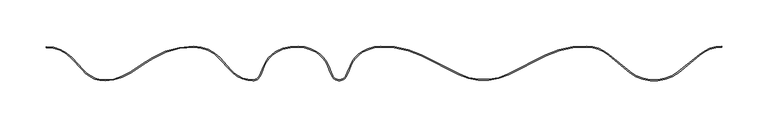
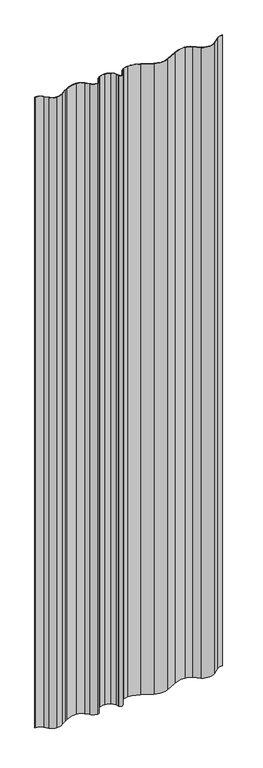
"""IFC4 building model written with IfcOpenShell, lengths in millimetres: plate geometry, Ritmica Couverture 728  : Ritmica Couverture 728 ."""

from ifc_helpers import new_model, si_unit, point, frame_2d, origin, origin_with_axes, place, context, project, spatial, polyline, circle_curve, trimmed, segment, composite_curve, outline, extrude, source, transform, mapped, element, save


def plate_36789d81(model_context):
    return source(origin(), model_context, "Body", "SweptSolid", [
        extrude(outline(composite_curve([segment(trimmed(circle_curve(frame_2d((-364.502108, -1.6070275)), 37.4503244), [point((-337.0323415, 23.8476131))], [point((-364.5, 35.8432969))], True, "CARTESIAN"), True, "CONTINUOUS"), segment(polyline([(-364.5, 35.8432969), (-364.5, 36.8432969)]), True, "CONTINUOUS"), segment(trimmed(circle_curve(frame_2d((-364.502108, -1.6070275)), 38.4503244), [point((-364.5, 36.8432969))], [point((-336.2988427, 24.5273039))], False, "CARTESIAN"), True, "CONTINUOUS"), segment(polyline([(-336.2988427, 24.5273039), (-325.1657095, 12.5128121)]), True, "CONTINUOUS"), segment(trimmed(circle_curve(frame_2d((-300.9525254, 31.7465075)), 30.9226992), [point((-325.1657095, 12.5128121))], [point((-300.9560263, 0.8238085))], True, "CARTESIAN"), True, "CONTINUOUS"), segment(trimmed(circle_curve(frame_2d((-301.1224531, 46.9875811)), 46.1640725), [point((-300.9560263, 0.8238085))], [point((-274.7793668, 9.077643))], True, "CARTESIAN"), True, "CONTINUOUS"), segment(polyline([(-274.7793668, 9.077643), (-257.4191603, 20.2335488), (-249.9824555, 24.6333657)]), True, "CONTINUOUS"), segment(trimmed(circle_curve(frame_2d((-207.0399788, -43.7745285)), 80.769402), [point((-249.9824555, 24.6333657))], [point((-205.2764454, 36.9756185))], False, "CARTESIAN"), True, "CONTINUOUS"), segment(trimmed(circle_curve(frame_2d((-205.28955, -1.4747036)), 38.4503244), [point((-205.2764454, 36.9756185))], [point((-177.0862848, 24.6596277))], False, "CARTESIAN"), True, "CONTINUOUS"), segment(polyline([(-177.0862848, 24.6596277), (-165.9530619, 12.6450392)]), True, "CONTINUOUS"), segment(trimmed(circle_curve(frame_2d((-141.7483155, 31.861513)), 30.9053816), [point((-165.9530619, 12.6450392))], [point((-141.7388151, 0.9561328))], True, "CARTESIAN"), True, "CONTINUOUS"), segment(trimmed(circle_curve(frame_2d((-141.7412317, 8.8174769)), 7.8613444), [point((-141.7388151, 0.9561328))], [point((-134.6523786, 5.41911))], True, "CARTESIAN"), True, "CONTINUOUS"), segment(polyline([(-134.6523786, 5.41911), (-133.0058364, 8.8537291), (-130.1361949, 16.0171646)]), True, "CONTINUOUS"), segment(trimmed(circle_curve(frame_2d((-100.7813815, 4.2736867)), 31.6166782), [point((-130.1361949, 16.0171646))], [point((-117.2712951, 31.249548))], False, "CARTESIAN"), True, "CONTINUOUS"), segment(trimmed(circle_curve(frame_2d((-95.6653979, -5.107923)), 42.2927948), [point((-117.2712951, 31.249548))], [point((-92.9613732, 37.0983413))], False, "CARTESIAN"), True, "CONTINUOUS"), segment(trimmed(circle_curve(frame_2d((-92.9958558, -1.3519677)), 38.4503244), [point((-92.9613732, 37.0983413))], [point((-72.9315296, 31.4481887))], False, "CARTESIAN"), True, "CONTINUOUS"), segment(trimmed(circle_curve(frame_2d((-89.429891, 4.4774932)), 31.6166783), [point((-72.9315296, 31.4481887))], [point((-60.0737631, 16.2176849))], False, "CARTESIAN"), True, "CONTINUOUS"), segment(polyline([(-60.0737631, 16.2176849), (-57.2049341, 9.0540021), (-55.5587687, 5.6192026)]), True, "CONTINUOUS"), segment(trimmed(circle_curve(frame_2d((-48.4695428, 9.016792)), 7.8613445), [point((-55.5587687, 5.6192026))], [point((-41.3806894, 5.6184253))], True, "CARTESIAN"), True, "CONTINUOUS"), segment(polyline([(-41.3806894, 5.6184253), (-39.7341474, 9.0530443), (-36.864533, 16.2164125)]), True, "CONTINUOUS"), segment(trimmed(circle_curve(frame_2d((-7.5096925, 4.473002)), 31.6166783), [point((-36.864533, 16.2164125))], [point((-24.0050966, 31.4455064))], False, "CARTESIAN"), True, "CONTINUOUS"), segment(trimmed(circle_curve(frame_2d((-3.9443669, -1.3568498)), 38.4503244), [point((-24.0050966, 31.4455064))], [point((-3.9600247, 37.0934714))], False, "CARTESIAN"), True, "CONTINUOUS"), segment(trimmed(circle_curve(frame_2d((-0.6465415, -57.1416685)), 94.293376), [point((-3.9600247, 37.0934714))], [point((40.2469535, 27.8228114))], False, "CARTESIAN"), True, "CONTINUOUS"), segment(polyline([(40.2469535, 27.8228114), (80.7920983, 7.4347692)]), True, "CONTINUOUS"), segment(trimmed(circle_curve(frame_2d((107.297726, 60.1457899)), 59.0), [point((80.7920983, 7.4347692))], [point((133.7975739, 7.4318632))], True, "CARTESIAN"), True, "CONTINUOUS"), segment(polyline([(133.7975739, 7.4318632), (174.3449541, 27.8154597)]), True, "CONTINUOUS"), segment(trimmed(circle_curve(frame_2d((215.2291326, -57.1535035)), 94.293376), [point((174.3449541, 27.8154597))], [point((218.5529494, 37.0812725))], False, "CARTESIAN"), True, "CONTINUOUS"), segment(trimmed(circle_curve(frame_2d((218.5330922, -1.0501427)), 38.1314203), [point((218.5529494, 37.0812725))], [point((242.9420646, 28.2450324))], False, "CARTESIAN"), True, "CONTINUOUS"), segment(polyline([(242.9420646, 28.2450324), (265.3517108, 9.5731372)]), True, "CONTINUOUS"), segment(trimmed(circle_curve(frame_2d((291.1626085, 44.140632)), 43.1406321), [point((265.3517108, 9.5731372))], [point((316.9697159, 9.5703074))], True, "CARTESIAN"), True, "CONTINUOUS"), segment(polyline([(316.9697159, 9.5703074), (339.6837236, 28.2398387)]), True, "CONTINUOUS"), segment(trimmed(circle_curve(frame_2d((364.0894837, -1.0580125)), 38.1314203), [point((339.6837236, 28.2398387))], [point((364.0915742, 37.0734077))], False, "CARTESIAN"), True, "CONTINUOUS"), segment(polyline([(364.0915742, 37.0734077), (364.0918834, 36.0734077)]), True, "CONTINUOUS"), segment(trimmed(circle_curve(frame_2d((364.0894837, -1.0580125)), 37.1314203), [point((364.0918834, 36.0734077))], [point((340.3237669, 27.4714999))], True, "CARTESIAN"), True, "CONTINUOUS"), segment(polyline([(340.3237669, 27.4714999), (317.5893991, 8.7850081)]), True, "CONTINUOUS"), segment(trimmed(circle_curve(frame_2d((291.1626085, 44.140632)), 44.1406321), [point((317.5893991, 8.7850081))], [point((264.7319415, 8.787906))], False, "CARTESIAN"), True, "CONTINUOUS"), segment(polyline([(264.7319415, 8.787906), (242.301937, 27.4767637)]), True, "CONTINUOUS"), segment(trimmed(circle_curve(frame_2d((218.5330922, -1.0501427)), 37.1314203), [point((242.301937, 27.4767637))], [point((218.5351278, 36.0812776))], True, "CARTESIAN"), True, "CONTINUOUS"), segment(trimmed(circle_curve(frame_2d((215.2291326, -57.1535035)), 93.293376), [point((218.5351278, 36.0812776))], [point((174.786334, 26.9180972))], True, "CARTESIAN"), True, "CONTINUOUS"), segment(polyline([(174.786334, 26.9180972), (134.2467239, 6.5384068)]), True, "CONTINUOUS"), segment(trimmed(circle_curve(frame_2d((107.297726, 60.1457899)), 60.0), [point((134.2467239, 6.5384068))], [point((80.3428504, 6.541362))], False, "CARTESIAN"), True, "CONTINUOUS"), segment(polyline([(80.3428504, 6.541362), (39.8054751, 26.9254973)]), True, "CONTINUOUS"), segment(trimmed(circle_curve(frame_2d((-0.6465415, -57.1416685)), 93.293376), [point((39.8054751, 26.9254973))], [point((-3.9423137, 36.0934746))], True, "CARTESIAN"), True, "CONTINUOUS"), segment(trimmed(circle_curve(frame_2d((-3.9443669, -1.3568498)), 37.4503244), [point((-3.9423137, 36.0934746))], [point((-23.4833655, 30.5923964))], True, "CARTESIAN"), True, "CONTINUOUS"), segment(trimmed(circle_curve(frame_2d((-7.5096925, 4.473002)), 30.6166783), [point((-23.4833655, 30.5923964))], [point((-35.936159, 15.8447651))], True, "CARTESIAN"), True, "CONTINUOUS"), segment(polyline([(-35.936159, 15.8447651), (-38.8181393, 8.6505282), (-40.478954, 5.1861371)]), True, "CONTINUOUS"), segment(trimmed(circle_curve(frame_2d((-48.4695428, 9.016792)), 8.8613445), [point((-40.478954, 5.1861371))], [point((-56.4605516, 5.1870133))], False, "CARTESIAN"), True, "CONTINUOUS"), segment(polyline([(-56.4605516, 5.1870133), (-58.1209864, 8.6515865), (-61.0021778, 15.8461393)]), True, "CONTINUOUS"), segment(trimmed(circle_curve(frame_2d((-89.429891, 4.4774932)), 30.6166783), [point((-61.0021778, 15.8461393))], [point((-73.4533542, 30.5951359))], True, "CARTESIAN"), True, "CONTINUOUS"), segment(trimmed(circle_curve(frame_2d((-92.9958558, -1.3519677)), 37.4503244), [point((-73.4533542, 30.5951359))], [point((-92.9938031, 36.0983567))], True, "CARTESIAN"), True, "CONTINUOUS"), segment(trimmed(circle_curve(frame_2d((-95.6653979, -5.107923)), 41.2927948), [point((-92.9938031, 36.0983567))], [point((-116.7550561, 30.3930801))], True, "CARTESIAN"), True, "CONTINUOUS"), segment(trimmed(circle_curve(frame_2d((-100.7813815, 4.2736867)), 30.6166783), [point((-116.7550561, 30.3930801))], [point((-129.207835, 15.6454822))], True, "CARTESIAN"), True, "CONTINUOUS"), segment(polyline([(-129.207835, 15.6454822), (-132.0898282, 8.4512131), (-133.7506431, 4.9868217)]), True, "CONTINUOUS"), segment(trimmed(circle_curve(frame_2d((-141.7412317, 8.8174769)), 8.8613444), [point((-133.7506431, 4.9868217))], [point((-141.7385077, -0.0438671))], False, "CARTESIAN"), True, "CONTINUOUS"), segment(trimmed(circle_curve(frame_2d((-141.7483155, 31.861513)), 31.9053816), [point((-141.7385077, -0.0438671))], [point((-166.7123042, 11.9931299))], False, "CARTESIAN"), True, "CONTINUOUS"), segment(polyline([(-166.7123042, 11.9931299), (-177.8197835, 23.9799369)]), True, "CONTINUOUS"), segment(trimmed(circle_curve(frame_2d((-205.28955, -1.4747036)), 37.4503244), [point((-177.8197835, 23.9799369))], [point((-205.2874969, 35.9756207))], True, "CARTESIAN"), True, "CONTINUOUS"), segment(trimmed(circle_curve(frame_2d((-207.0399788, -43.7745285)), 79.769402), [point((-205.2874969, 35.9756207))], [point((-249.4619, 23.7794358))], True, "CARTESIAN"), True, "CONTINUOUS"), segment(polyline([(-249.4619, 23.7794358), (-256.8940788, 19.3822966), (-274.2236405, 8.2460837)]), True, "CONTINUOUS"), segment(trimmed(circle_curve(frame_2d((-301.1224531, 46.9875811)), 47.1640725), [point((-274.2236405, 8.2460837))], [point((-300.9542755, -0.1761916))], False, "CARTESIAN"), True, "CONTINUOUS"), segment(trimmed(circle_curve(frame_2d((-300.9525254, 31.7465075)), 31.9226992), [point((-300.9542755, -0.1761916))], [point((-325.9248619, 11.8608059))], False, "CARTESIAN"), True, "CONTINUOUS"), segment(polyline([(-325.9248619, 11.8608059), (-337.0323415, 23.8476131)]), True, "CONTINUOUS")], self_intersect=False)), origin_with_axes(), (0.0, 0.0, 1.0), 2588.190451),
    ])


if __name__ == "__main__":
    model = new_model("IFC4")
    model_context = context("Model", 3, world=origin())
    ifc_project = project(units=[si_unit("LENGTHUNIT", "METRE", prefix="MILLI")], contexts=[model_context])
    site = spatial("IfcSite", under=ifc_project)
    building = spatial("IfcBuilding", under=site)
    placement = place(None, origin())
    plate_shape = plate_36789d81(model_context)
    element("IfcPlate", 1, ObjectType="Ritmica Couverture 728  : Ritmica Couverture 728 ", at=placement, inside=building, context=model_context, shape_type="MappedRepresentation", body=[
        mapped(plate_shape, transform((0.0, 0.0, 0.0), x_axis=(1.0, 0.0, 0.0), y_axis=(0.0, 1.0, 0.0), z_axis=(0.0, 0.0, 1.0))),
    ])
    save(model, "model.ifc")
